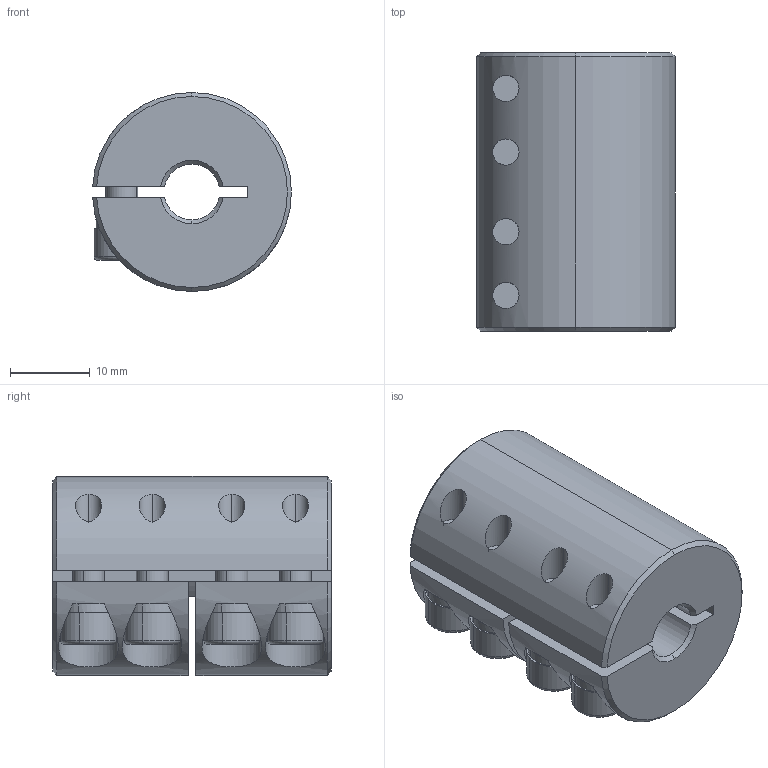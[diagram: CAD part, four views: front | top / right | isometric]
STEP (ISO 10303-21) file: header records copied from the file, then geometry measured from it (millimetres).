
FILE_DESCRIPTION (( 'STEP AP203' ), '1' );
FILE_NAME ('LL-B-D25L35-7-10.STEP', '2021-11-05T06:58:19', ( '' ), ( '' ), 'SwSTEP 2.0', 'SolidWorks 2018', '' );
FILE_SCHEMA (( 'CONFIG_CONTROL_DESIGN' ));
Length unit declared in the file: millimetre
Products named in the file (1): LL-B-D25L35-7-10
Bounding box: 24.98 x 35 x 25 mm (x, y, z)
Volume: 14045.5 mm3; surface area: 6901.1 mm2
Topology: 1 solids, 1 shells, 192 faces, 493 edges, 307 vertices
Faces by surface type: plane 92, cylinder 72, cone 20, torus 8
Entity records: 6313 total; most frequent: CARTESIAN_POINT 1497, DIRECTION 1042, ORIENTED_EDGE 970, EDGE_CURVE 485, AXIS2_PLACEMENT_3D 404, VERTEX_POINT 307, VECTOR 234, LINE 234
